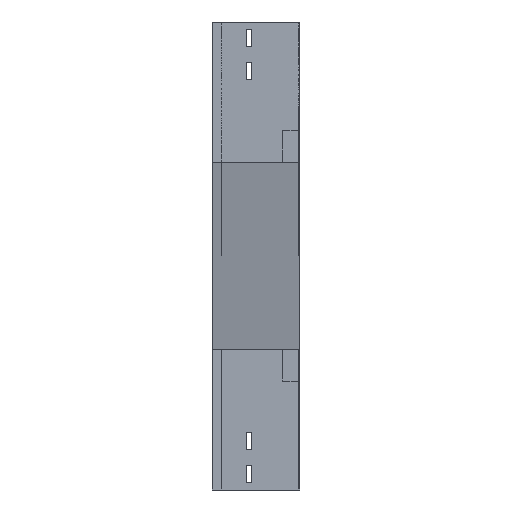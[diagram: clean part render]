
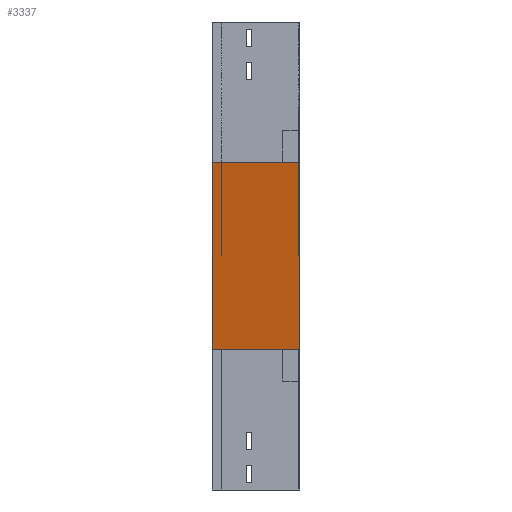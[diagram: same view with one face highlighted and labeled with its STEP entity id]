
A CAD part, left-side view. The second image highlights one B-rep face of the part: STEP entity #3337.
In plain terms, the highlighted planar face has unit normal (-0.979, 0, -0.204).
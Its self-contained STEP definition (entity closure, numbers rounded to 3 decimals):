
#101 = CARTESIAN_POINT ( 'NONE',  ( 0., 112.5, -180. ) ) ;
#136 = CARTESIAN_POINT ( 'NONE',  ( 50., 0., -420. ) ) ;
#147 = DIRECTION ( 'NONE',  ( 0.204, 0., -0.979 ) ) ;
#164 = DIRECTION ( 'NONE',  ( 0.204, 0., -0.979 ) ) ;
#339 = DIRECTION ( 'NONE',  ( 0., 1., 0. ) ) ;
#419 = VECTOR ( 'NONE', #339, 1000. ) ;
#643 = CARTESIAN_POINT ( 'NONE',  ( 50., 0., -420. ) ) ;
#923 = LINE ( 'NONE', #643, #419 ) ;
#1124 = ORIENTED_EDGE ( 'NONE', *, *, #3490, .F. ) ;
#1360 = DIRECTION ( 'NONE',  ( 0., -1., 0. ) ) ;
#1577 = ORIENTED_EDGE ( 'NONE', *, *, #1737, .F. ) ;
#1651 = CARTESIAN_POINT ( 'NONE',  ( 50., 112.5, -420. ) ) ;
#1730 = ORIENTED_EDGE ( 'NONE', *, *, #2706, .T. ) ;
#1737 = EDGE_CURVE ( 'NONE', #3280, #3016, #3435, .T. ) ;
#1885 = CARTESIAN_POINT ( 'NONE',  ( 0., 0., -180. ) ) ;
#1910 = CARTESIAN_POINT ( 'NONE',  ( 0., 0., -180. ) ) ;
#2028 = VECTOR ( 'NONE', #1360, 1000. ) ;
#2054 = CARTESIAN_POINT ( 'NONE',  ( 0., 112.5, -180. ) ) ;
#2155 = VERTEX_POINT ( 'NONE', #1651 ) ;
#2254 = CARTESIAN_POINT ( 'NONE',  ( 0., 0., -180. ) ) ;
#2336 = VECTOR ( 'NONE', #164, 1000. ) ;
#2411 = AXIS2_PLACEMENT_3D ( 'NONE', #2254, #3509, #147 ) ;
#2565 = PLANE ( 'NONE',  #2411 ) ;
#2706 = EDGE_CURVE ( 'NONE', #3181, #2155, #3585, .T. ) ;
#3016 = VERTEX_POINT ( 'NONE', #136 ) ;
#3181 = VERTEX_POINT ( 'NONE', #101 ) ;
#3280 = VERTEX_POINT ( 'NONE', #3826 ) ;
#3292 = VECTOR ( 'NONE', #3398, 1000. ) ;
#3337 = ADVANCED_FACE ( 'NONE', ( #3448 ), #2565, .F. ) ;
#3398 = DIRECTION ( 'NONE',  ( 0.204, 0., -0.979 ) ) ;
#3435 = LINE ( 'NONE', #1885, #3292 ) ;
#3448 = FACE_OUTER_BOUND ( 'NONE', #3779, .T. ) ;
#3490 = EDGE_CURVE ( 'NONE', #3016, #2155, #923, .T. ) ;
#3501 = LINE ( 'NONE', #1910, #2028 ) ;
#3509 = DIRECTION ( 'NONE',  ( 0.979, 0., 0.204 ) ) ;
#3585 = LINE ( 'NONE', #2054, #2336 ) ;
#3655 = EDGE_CURVE ( 'NONE', #3181, #3280, #3501, .T. ) ;
#3665 = ORIENTED_EDGE ( 'NONE', *, *, #3655, .F. ) ;
#3779 = EDGE_LOOP ( 'NONE', ( #1577, #3665, #1730, #1124 ) ) ;
#3826 = CARTESIAN_POINT ( 'NONE',  ( 0., 0., -180. ) ) ;
